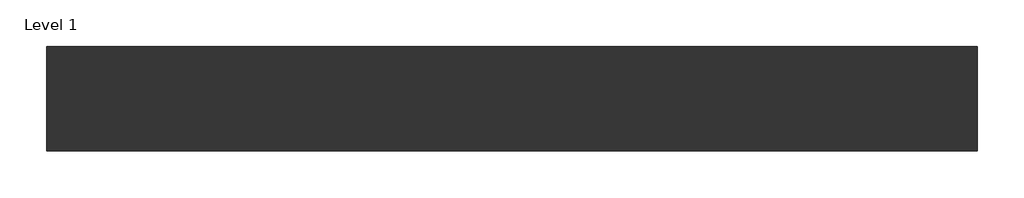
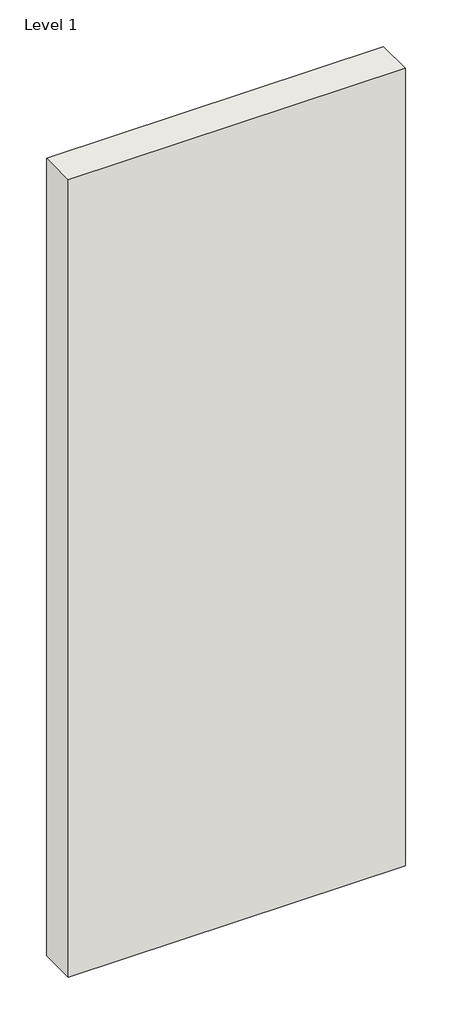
# One storey: 1 wall.
"""IFC4 building model written with IfcOpenShell, lengths in millimetres."""

import ifcopenshell
import ifcopenshell.guid

model = None  # the IFC model being written
_history = None  # IfcOwnerHistory: only IFC2X3 demands one
_inside = {}  # id of a spatial element -> (the spatial element, [elements in it])
_under = {}  # id of a project, library or spatial element -> (it, [spatial elements below it])
_declared = {}  # id of a project -> (the project, [libraries it declares])
_typed = {}  # id of a type object -> (the type object, [elements of that type])
_made_of = {}  # id of a material, layer set ... -> (it, [elements and type objects made of it])


def new_model(schema):
    """Start an empty IFC model of exactly this schema.

    Asked for "IFC4X3", IfcOpenShell would pick the latest addendum, in which some entities
    have other attributes; the version numbers below select the first issue.
    IFC2X3 requires an IfcOwnerHistory on every rooted entity: one is made here for all.
    """
    global model, _history
    if schema == "IFC4X3":
        model = ifcopenshell.file(schema_version=(4, 3, 0, 0))
    else:
        model = ifcopenshell.file(schema=schema)
    _inside.clear()
    _under.clear()
    _declared.clear()
    _typed.clear()
    _made_of.clear()
    _history = None
    if model.schema == "IFC2X3":
        org = make("IfcOrganization", Name="unknown")
        user = make(
            "IfcPersonAndOrganization",
            ThePerson=make("IfcPerson", FamilyName="unknown"),
            TheOrganization=org,
        )
        app = make(
            "IfcApplication",
            ApplicationDeveloper=org,
            Version="unknown",
            ApplicationFullName="unknown",
            ApplicationIdentifier="unknown",
        )
        _history = make(
            "IfcOwnerHistory",
            OwningUser=user,
            OwningApplication=app,
            ChangeAction="ADDED",
            CreationDate=0,
        )
    return model


def make(cls, **values):
    """One entity of the class cls with the attributes given. An attribute that is None is left unset."""
    return model.create_entity(
        cls, **{name: value for name, value in values.items() if value is not None}
    )


def rooted(cls, **values):
    """An entity with a GlobalId (a new one), such as an element, a storey or a relation."""
    return make(cls, GlobalId=ifcopenshell.guid.new(), OwnerHistory=_history, **values)


def si_unit(unit_type, name, prefix=None):
    """IfcSIUnit, for example si_unit("LENGTHUNIT", "METRE", prefix="MILLI")."""
    return make("IfcSIUnit", UnitType=unit_type, Prefix=prefix, Name=name)


def assignment(units):
    """IfcUnitAssignment: the units of a project."""
    return None if units is None else make("IfcUnitAssignment", Units=units)


def point(xyz):
    """IfcCartesianPoint."""
    return None if xyz is None else make("IfcCartesianPoint", Coordinates=xyz)


def direction(xyz):
    """IfcDirection."""
    return None if xyz is None else make("IfcDirection", DirectionRatios=xyz)


def frame(location, z_axis=None, x_axis=None):
    """IfcAxis2Placement3D, a coordinate frame: its origin and axes. An axis left out is left unset."""
    return make(
        "IfcAxis2Placement3D",
        Location=point(location),
        Axis=direction(z_axis),
        RefDirection=direction(x_axis),
    )


def origin():
    """The frame at (0, 0, 0) with its axes left unset."""
    return frame((0.0, 0.0, 0.0))


def origin_with_axes():
    """The frame at (0, 0, 0) with the z axis (0, 0, 1) and the x axis (1, 0, 0) written out."""
    return frame((0.0, 0.0, 0.0), z_axis=(0.0, 0.0, 1.0), x_axis=(1.0, 0.0, 0.0))


def place(relative_to, where):
    """IfcLocalPlacement: puts the frame where relative to a parent placement (None: the world)."""
    return make(
        "IfcLocalPlacement", PlacementRelTo=relative_to, RelativePlacement=where
    )


def context(
    kind, dimensions, precision=None, world=None, true_north=None, identifier=None
):
    """IfcGeometricRepresentationContext, for example the 3D "Model" context."""
    return make(
        "IfcGeometricRepresentationContext",
        ContextIdentifier=identifier,
        ContextType=kind,
        CoordinateSpaceDimension=dimensions,
        Precision=precision,
        WorldCoordinateSystem=world,
        TrueNorth=true_north,
    )


def project(units=None, contexts=None):
    """IfcProject with its units and contexts."""
    return rooted(
        "IfcProject",
        Name="project",
        RepresentationContexts=contexts,
        UnitsInContext=assignment(units),
    )


def spatial(cls, under=None, at=None, **own):
    """A site, building, storey or space (cls), placed at a placement, below another one or the project."""
    s = rooted(cls, ObjectPlacement=at, **own)
    if under is not None:
        _under.setdefault(under.id(), (under, []))[1].append(s)
    return s


def polyline(points):
    """IfcPolyline through the points."""
    return make("IfcPolyline", Points=[point(p) for p in points])


def outline(outer, holes=None, kind="AREA"):
    """IfcArbitraryClosedProfileDef: a profile drawn as a closed curve; with holes, ...WithVoids."""
    if holes is None:
        return make("IfcArbitraryClosedProfileDef", ProfileType=kind, OuterCurve=outer)
    return make(
        "IfcArbitraryProfileDefWithVoids",
        ProfileType=kind,
        OuterCurve=outer,
        InnerCurves=holes,
    )


def extrude(swept, where, along, depth):
    """IfcExtrudedAreaSolid: the profile swept, set in the frame where, extruded along a direction by depth."""
    return make(
        "IfcExtrudedAreaSolid",
        SweptArea=swept,
        Position=where,
        ExtrudedDirection=direction(along),
        Depth=depth,
    )


def shape(context_of_items, identifier, shape_type, items):
    """IfcShapeRepresentation: the items that make up one representation, for example the "Body"."""
    return make(
        "IfcShapeRepresentation",
        ContextOfItems=context_of_items,
        RepresentationIdentifier=identifier,
        RepresentationType=shape_type,
        Items=items,
    )


def made_of(thing, what):
    """Note that an element or type object is made of a material, layer set ...; save() writes the relation."""
    if what is not None:
        _made_of.setdefault(what.id(), (what, []))[1].append(thing)
    return thing


def element(
    cls,
    number,
    at=None,
    inside=None,
    cuts=None,
    type_object=None,
    material=None,
    context=None,
    identifier="Body",
    shape_type=None,
    held_by="IfcProductDefinitionShape",
    body=None,
    shapes=None,
    **own,
):
    """One element of the class cls, such as IfcWall. Its Tag is "e" and its number.

    at: its placement. inside: the storey or other place that contains it. cuts: it is an
    opening in that element (IfcRelVoidsElement). A single representation is given by context,
    identifier, shape_type and body (its items); several are given by shapes. held_by: the class
    of the entity that holds the representations. save() writes the other relations.
    """
    e = rooted(cls, Tag="e%d" % number, ObjectPlacement=at, **own)
    if body is not None:
        shapes = [shape(context, identifier, shape_type, body)]
    if shapes is not None:
        e.Representation = make(held_by, Representations=shapes)
    if inside is not None:
        _inside.setdefault(inside.id(), (inside, []))[1].append(e)
    if cuts is not None:
        rooted(
            "IfcRelVoidsElement", RelatingBuildingElement=cuts, RelatedOpeningElement=e
        )
    if type_object is not None:
        _typed.setdefault(type_object.id(), (type_object, []))[1].append(e)
    return made_of(e, material)


def aggregate(whole, parts):
    """IfcRelAggregates: a whole, such as a stair, and the parts it consists of."""
    return rooted("IfcRelAggregates", RelatingObject=whole, RelatedObjects=parts)


def save(model, path):
    """Write the relations noted so far, then the file.

    IfcRelAggregates (storeys below a building ...), IfcRelContainedInSpatialStructure (elements
    in a storey), IfcRelDefinesByType, IfcRelAssociatesMaterial and IfcRelDeclares: one each for
    every whole, place, type object, material and project.
    """
    for whole, parts in _under.values():
        aggregate(whole, parts)
    for where, things in _inside.values():
        rooted(
            "IfcRelContainedInSpatialStructure",
            RelatedElements=things,
            RelatingStructure=where,
        )
    for kind, things in _typed.values():
        rooted("IfcRelDefinesByType", RelatedObjects=things, RelatingType=kind)
    for what, things in _made_of.values():
        rooted("IfcRelAssociatesMaterial", RelatedObjects=things, RelatingMaterial=what)
    for by, libraries in _declared.values():
        rooted("IfcRelDeclares", RelatingContext=by, RelatedDefinitions=libraries)
    model.write(path)


model = new_model("IFC4")

# Units and contexts
model_context = context("Model", 3, world=origin())
ifc_project = project(units=[si_unit("LENGTHUNIT", "METRE", prefix="MILLI")], contexts=[model_context])

# Site, building, storey
site = spatial("IfcSite", under=ifc_project)
building = spatial("IfcBuilding", under=site)
storey = spatial("IfcBuildingStorey", under=building, Name="Level 1", Elevation=0.0)

# Wall
placement = place(None, origin())
element("IfcWall", 1, ObjectType="RIGIPS - 3.22.00 - EI 60, REI 60 - 4500 - 12dB (112.5)", at=placement, inside=storey, context=model_context, shape_type="SweptSolid", body=[
    extrude(outline(polyline([(1000.0, -56.25), (0.0, -56.25), (0.0, 56.25), (1000.0, 56.25), (1000.0, -56.25)])), origin_with_axes(), (0.0, 0.0, 1.0), 2500.0),
])

save(model, "model.ifc")
